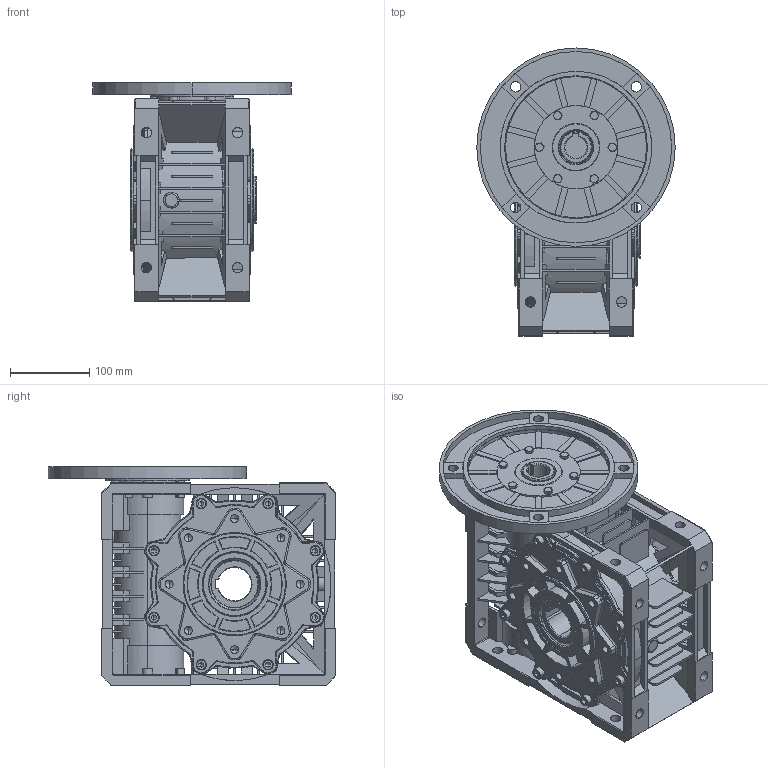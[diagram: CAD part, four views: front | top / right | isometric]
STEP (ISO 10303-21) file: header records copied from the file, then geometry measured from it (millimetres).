
FILE_DESCRIPTION (( 'STEP AP203' ), '1' );
FILE_NAME ('3F021177.STEP', '2012-07-26T08:26:48', ( 'Amministratore' ), ( 'SerteK sas' ), 'SwSTEP 2.0', 'SolidWorks 2009', '' );
FILE_SCHEMA (( 'CONFIG_CONTROL_DESIGN' ));
Products named in the file (1): 3F021177
Bounding box: 250 x 362.5 x 275.5 mm (x, y, z)
Surface area: 952795.3 mm2 (no closed solid volume)
Topology: 0 solids, 30 shells, 2558 faces, 7118 edges, 4548 vertices
Faces by surface type: plane 1157, cylinder 766, bspline 369, cone 266
Entity records: 112572 total; most frequent: CARTESIAN_POINT 51942, ORIENTED_EDGE 14000, DIRECTION 10754, EDGE_CURVE 7016, VERTEX_POINT 4548, AXIS2_PLACEMENT_3D 3651, VECTOR 3452, LINE 3452
